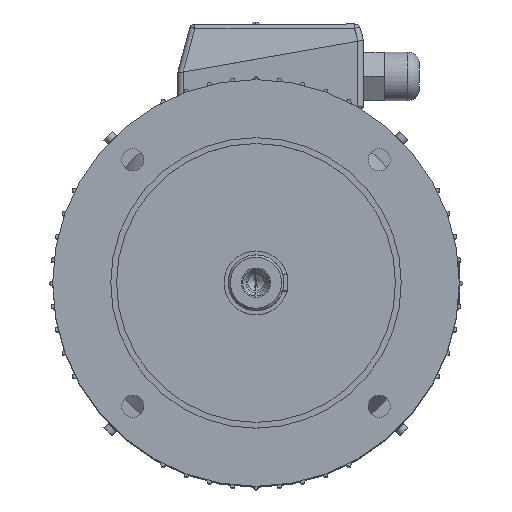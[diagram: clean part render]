
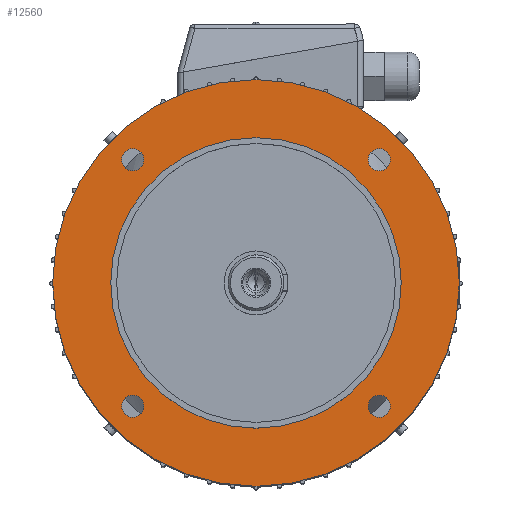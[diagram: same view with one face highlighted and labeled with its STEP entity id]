
A CAD part, top view. The second image highlights one B-rep face of the part: STEP entity #12560.
In plain terms, the highlighted planar face has unit normal (0, 0, 1).
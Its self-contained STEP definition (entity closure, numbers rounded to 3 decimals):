
#64 = ORIENTED_EDGE ( 'NONE', *, *, #827, .F. ) ;
#16534 = VERTEX_POINT ( 'NONE', #9562 ) ;
#16558 = EDGE_LOOP ( 'NONE', ( #15928, #15309 ) ) ;
#16850 = EDGE_CURVE ( 'NONE', #17472, #17728, #9859, .T. ) ;
#563 = VERTEX_POINT ( 'NONE', #13261 ) ;
#658 = EDGE_CURVE ( 'NONE', #563, #12033, #13300, .T. ) ;
#17180 = CIRCLE ( 'NONE', #17181, 9.5 ) ;
#17181 = AXIS2_PLACEMENT_3D ( 'NONE', #17182, #17183, #17184 ) ;
#17182 = CARTESIAN_POINT ( 'NONE',  ( 106.066, -106.066, 81. ) ) ;
#17183 = DIRECTION ( 'NONE',  ( 0., 0., 1. ) ) ;
#17184 = DIRECTION ( 'NONE',  ( 1., 0., 0. ) ) ;
#827 = EDGE_CURVE ( 'NONE', #12033, #563, #13388, .T. ) ;
#17271 = ORIENTED_EDGE ( 'NONE', *, *, #16850, .F. ) ;
#1086 = ORIENTED_EDGE ( 'NONE', *, *, #658, .F. ) ;
#17472 = VERTEX_POINT ( 'NONE', #10309 ) ;
#17728 = VERTEX_POINT ( 'NONE', #10442 ) ;
#17887 = ORIENTED_EDGE ( 'NONE', *, *, #17986, .F. ) ;
#17986 = EDGE_CURVE ( 'NONE', #17728, #17472, #10558, .T. ) ;
#1711 = EDGE_CURVE ( 'NONE', #2948, #11899, #14000, .T. ) ;
#18495 = EDGE_LOOP ( 'NONE', ( #17887, #17271 ) ) ;
#18677 = CARTESIAN_POINT ( 'NONE',  ( 96.566, -106.066, 81. ) ) ;
#2587 = VERTEX_POINT ( 'NONE', #14855 ) ;
#2948 = VERTEX_POINT ( 'NONE', #15143 ) ;
#3397 = ORIENTED_EDGE ( 'NONE', *, *, #15470, .F. ) ;
#3685 = CARTESIAN_POINT ( 'NONE',  ( 175., 0., 81. ) ) ;
#3767 = CARTESIAN_POINT ( 'NONE',  ( 115.566, 106.066, 81. ) ) ;
#3874 = CIRCLE ( 'NONE', #3880, 175. ) ;
#3880 = AXIS2_PLACEMENT_3D ( 'NONE', #3881, #3882, #3883 ) ;
#3881 = CARTESIAN_POINT ( 'NONE',  ( 0., 0., 81. ) ) ;
#3882 = DIRECTION ( 'NONE',  ( 0., 0., 1. ) ) ;
#3883 = DIRECTION ( 'NONE',  ( 1., 0., 0. ) ) ;
#4012 = EDGE_CURVE ( 'NONE', #15204, #16534, #15960, .T. ) ;
#4244 = CARTESIAN_POINT ( 'NONE',  ( -115.566, -106.066, 81. ) ) ;
#4436 = ORIENTED_EDGE ( 'NONE', *, *, #4012, .F. ) ;
#4611 = CIRCLE ( 'NONE', #4612, 9.5 ) ;
#4612 = AXIS2_PLACEMENT_3D ( 'NONE', #4617, #4618, #4619 ) ;
#4617 = CARTESIAN_POINT ( 'NONE',  ( 106.066, 106.066, 81. ) ) ;
#4618 = DIRECTION ( 'NONE',  ( 0., 0., 1. ) ) ;
#4619 = DIRECTION ( 'NONE',  ( 1., 0., 0. ) ) ;
#5049 = EDGE_LOOP ( 'NONE', ( #4436, #3397 ) ) ;
#5333 = ORIENTED_EDGE ( 'NONE', *, *, #14370, .F. ) ;
#5439 = FACE_BOUND ( 'NONE', #12481, .T. ) ;
#5440 = FACE_BOUND ( 'NONE', #11948, .T. ) ;
#5441 = FACE_BOUND ( 'NONE', #18495, .T. ) ;
#5442 = FACE_OUTER_BOUND ( 'NONE', #16558, .T. ) ;
#5443 = FACE_BOUND ( 'NONE', #6919, .T. ) ;
#5444 = FACE_BOUND ( 'NONE', #5049, .T. ) ;
#5445 = PLANE ( 'NONE',  #5446 ) ;
#5446 = AXIS2_PLACEMENT_3D ( 'NONE', #5447, #5448, #5449 ) ;
#5447 = CARTESIAN_POINT ( 'NONE',  ( 0., 175., 81. ) ) ;
#5448 = DIRECTION ( 'NONE',  ( 0., 0., -1. ) ) ;
#5449 = DIRECTION ( 'NONE',  ( -1., 0., 0. ) ) ;
#5929 = EDGE_CURVE ( 'NONE', #14098, #7851, #17180, .T. ) ;
#6362 = ORIENTED_EDGE ( 'NONE', *, *, #5929, .F. ) ;
#6919 = EDGE_LOOP ( 'NONE', ( #6362, #5333 ) ) ;
#7667 = CARTESIAN_POINT ( 'NONE',  ( 115.566, -106.066, 81. ) ) ;
#7844 = CIRCLE ( 'NONE', #7845, 9.5 ) ;
#7845 = AXIS2_PLACEMENT_3D ( 'NONE', #7855, #7856, #7857 ) ;
#7851 = VERTEX_POINT ( 'NONE', #18677 ) ;
#7855 = CARTESIAN_POINT ( 'NONE',  ( 106.066, -106.066, 81. ) ) ;
#7856 = DIRECTION ( 'NONE',  ( 0., 0., 1. ) ) ;
#7857 = DIRECTION ( 'NONE',  ( 1., 0., 0. ) ) ;
#8183 = CIRCLE ( 'NONE', #8184, 175. ) ;
#8184 = AXIS2_PLACEMENT_3D ( 'NONE', #8185, #8186, #8187 ) ;
#8185 = CARTESIAN_POINT ( 'NONE',  ( 0., 0., 81. ) ) ;
#8186 = DIRECTION ( 'NONE',  ( 0., 0., 1. ) ) ;
#8187 = DIRECTION ( 'NONE',  ( 1., 0., 0. ) ) ;
#8453 = CARTESIAN_POINT ( 'NONE',  ( -96.566, 106.066, 81. ) ) ;
#8660 = CIRCLE ( 'NONE', #8661, 9.5 ) ;
#8661 = AXIS2_PLACEMENT_3D ( 'NONE', #8662, #8663, #8664 ) ;
#8662 = CARTESIAN_POINT ( 'NONE',  ( -106.066, 106.066, 81. ) ) ;
#8663 = DIRECTION ( 'NONE',  ( 0., 0., 1. ) ) ;
#8664 = DIRECTION ( 'NONE',  ( 1., 0., 0. ) ) ;
#9562 = CARTESIAN_POINT ( 'NONE',  ( -115.566, 106.066, 81. ) ) ;
#9859 = CIRCLE ( 'NONE', #9860, 125. ) ;
#9860 = AXIS2_PLACEMENT_3D ( 'NONE', #9861, #9862, #9868 ) ;
#9861 = CARTESIAN_POINT ( 'NONE',  ( 0., 0., 81. ) ) ;
#9862 = DIRECTION ( 'NONE',  ( 0., 0., 1. ) ) ;
#9868 = DIRECTION ( 'NONE',  ( 1., 0., 0. ) ) ;
#10309 = CARTESIAN_POINT ( 'NONE',  ( -125., 0., 81. ) ) ;
#10442 = CARTESIAN_POINT ( 'NONE',  ( 125., 0., 81. ) ) ;
#10558 = CIRCLE ( 'NONE', #10559, 125. ) ;
#10559 = AXIS2_PLACEMENT_3D ( 'NONE', #10560, #10561, #10562 ) ;
#10560 = CARTESIAN_POINT ( 'NONE',  ( 0., 0., 81. ) ) ;
#10561 = DIRECTION ( 'NONE',  ( 0., 0., 1. ) ) ;
#10562 = DIRECTION ( 'NONE',  ( 1., 0., 0. ) ) ;
#11866 = VERTEX_POINT ( 'NONE', #3685 ) ;
#11899 = VERTEX_POINT ( 'NONE', #3767 ) ;
#11923 = EDGE_CURVE ( 'NONE', #11866, #2587, #3874, .T. ) ;
#11948 = EDGE_LOOP ( 'NONE', ( #1086, #64 ) ) ;
#12033 = VERTEX_POINT ( 'NONE', #4244 ) ;
#12034 = ORIENTED_EDGE ( 'NONE', *, *, #1711, .F. ) ;
#12199 = EDGE_CURVE ( 'NONE', #11899, #2948, #4611, .T. ) ;
#12310 = ORIENTED_EDGE ( 'NONE', *, *, #12199, .F. ) ;
#12481 = EDGE_LOOP ( 'NONE', ( #12310, #12034 ) ) ;
#12560 = ADVANCED_FACE ( 'NONE', ( #5439, #5440, #5441, #5442, #5443, #5444 ), #5445, .F. ) ;
#13261 = CARTESIAN_POINT ( 'NONE',  ( -96.566, -106.066, 81. ) ) ;
#13300 = CIRCLE ( 'NONE', #13301, 9.5 ) ;
#13301 = AXIS2_PLACEMENT_3D ( 'NONE', #13302, #13303, #13304 ) ;
#13302 = CARTESIAN_POINT ( 'NONE',  ( -106.066, -106.066, 81. ) ) ;
#13303 = DIRECTION ( 'NONE',  ( 0., 0., 1. ) ) ;
#13304 = DIRECTION ( 'NONE',  ( 1., 0., 0. ) ) ;
#13388 = CIRCLE ( 'NONE', #13389, 9.5 ) ;
#13389 = AXIS2_PLACEMENT_3D ( 'NONE', #13390, #13391, #13392 ) ;
#13390 = CARTESIAN_POINT ( 'NONE',  ( -106.066, -106.066, 81. ) ) ;
#13391 = DIRECTION ( 'NONE',  ( 0., 0., 1. ) ) ;
#13392 = DIRECTION ( 'NONE',  ( 1., 0., 0. ) ) ;
#14000 = CIRCLE ( 'NONE', #14001, 9.5 ) ;
#14001 = AXIS2_PLACEMENT_3D ( 'NONE', #14002, #14003, #14004 ) ;
#14002 = CARTESIAN_POINT ( 'NONE',  ( 106.066, 106.066, 81. ) ) ;
#14003 = DIRECTION ( 'NONE',  ( 0., 0., 1. ) ) ;
#14004 = DIRECTION ( 'NONE',  ( 1., 0., 0. ) ) ;
#14098 = VERTEX_POINT ( 'NONE', #7667 ) ;
#14370 = EDGE_CURVE ( 'NONE', #7851, #14098, #7844, .T. ) ;
#14855 = CARTESIAN_POINT ( 'NONE',  ( -175., 0., 81. ) ) ;
#14862 = EDGE_CURVE ( 'NONE', #2587, #11866, #8183, .T. ) ;
#15143 = CARTESIAN_POINT ( 'NONE',  ( 96.566, 106.066, 81. ) ) ;
#15204 = VERTEX_POINT ( 'NONE', #8453 ) ;
#15309 = ORIENTED_EDGE ( 'NONE', *, *, #14862, .T. ) ;
#15470 = EDGE_CURVE ( 'NONE', #16534, #15204, #8660, .T. ) ;
#15928 = ORIENTED_EDGE ( 'NONE', *, *, #11923, .T. ) ;
#15960 = CIRCLE ( 'NONE', #15961, 9.5 ) ;
#15961 = AXIS2_PLACEMENT_3D ( 'NONE', #15962, #15963, #15964 ) ;
#15962 = CARTESIAN_POINT ( 'NONE',  ( -106.066, 106.066, 81. ) ) ;
#15963 = DIRECTION ( 'NONE',  ( 0., 0., 1. ) ) ;
#15964 = DIRECTION ( 'NONE',  ( 1., 0., 0. ) ) ;
